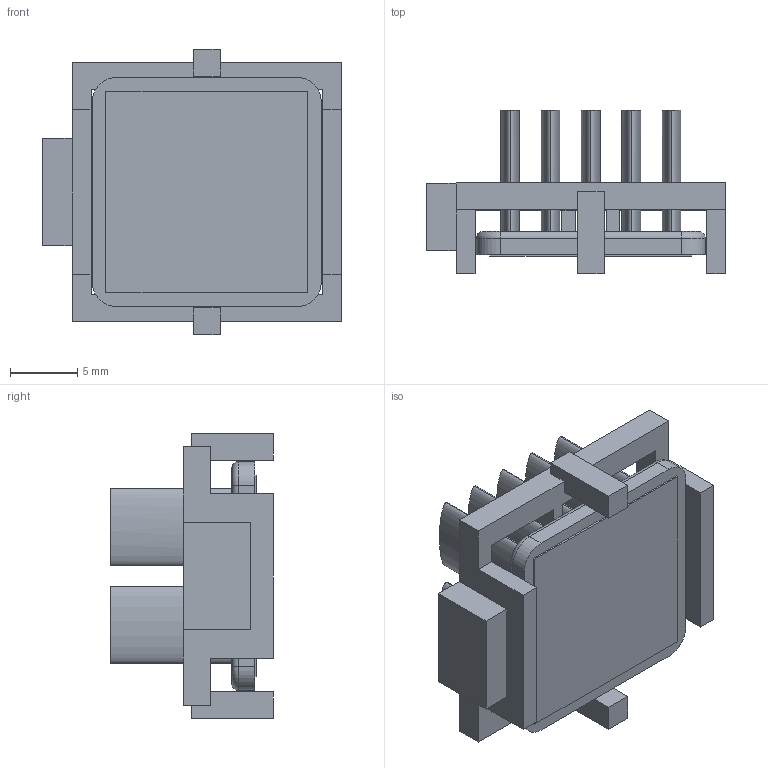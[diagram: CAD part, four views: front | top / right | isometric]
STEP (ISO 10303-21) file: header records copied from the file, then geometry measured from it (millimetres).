
FILE_DESCRIPTION (( 'STEP AP214' ), '1' );
FILE_NAME ('INM17001-11W-1.7BU.STEP', '2023-03-01T22:59:05', ( '' ), ( '' ), 'SwSTEP 2.0', 'SolidWorks 2020', '' );
FILE_SCHEMA (( 'AUTOMOTIVE_DESIGN' ));
Length unit declared in the file: millimetre
Products named in the file (1): INM17001-11W-1.7BU
Bounding box: 22.2 x 12.1 x 21.2 mm (x, y, z)
Volume: 1647.9 mm3; surface area: 3266.4 mm2
Topology: 3 solids, 3 shells, 99 faces, 244 edges, 160 vertices
Faces by surface type: plane 67, bspline 20, cylinder 8, torus 4
Entity records: 4079 total; most frequent: CARTESIAN_POINT 764, ORIENTED_EDGE 488, DIRECTION 384, EDGE_CURVE 244, LINE 184, VECTOR 184, VERTEX_POINT 160, EDGE_LOOP 110
